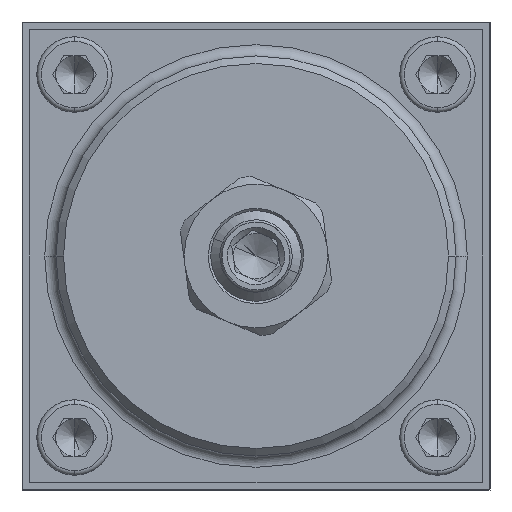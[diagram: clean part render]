
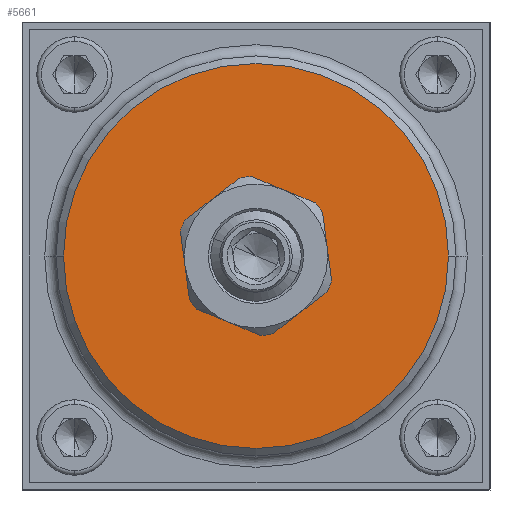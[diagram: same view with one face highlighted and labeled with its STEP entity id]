
A CAD part, left-side view. The second image highlights one B-rep face of the part: STEP entity #5661.
In plain terms, the highlighted planar face has unit normal (-1, 0, 0).
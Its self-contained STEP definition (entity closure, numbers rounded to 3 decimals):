
#672 = EDGE_LOOP ( 'NONE', ( #1467, #17270 ) ) ;
#769 = DIRECTION ( 'NONE',  ( 0., -1., 0. ) ) ;
#1389 = VERTEX_POINT ( 'NONE', #2290 ) ;
#1467 = ORIENTED_EDGE ( 'NONE', *, *, #8855, .T. ) ;
#1488 = ORIENTED_EDGE ( 'NONE', *, *, #12699, .T. ) ;
#1932 = EDGE_CURVE ( 'NONE', #13708, #6461, #3981, .T. ) ;
#2042 = VERTEX_POINT ( 'NONE', #17888 ) ;
#2168 = CARTESIAN_POINT ( 'NONE',  ( -150.5, 0., 0. ) ) ;
#2290 = CARTESIAN_POINT ( 'NONE',  ( -150.5, -25.5, 0. ) ) ;
#2869 = VERTEX_POINT ( 'NONE', #6132 ) ;
#3228 = AXIS2_PLACEMENT_3D ( 'NONE', #13258, #3989, #14816 ) ;
#3349 = CIRCLE ( 'NONE', #5441, 9.5 ) ;
#3692 = DIRECTION ( 'NONE',  ( 0., 0.382, -0.924 ) ) ;
#3981 = CIRCLE ( 'NONE', #15417, 9.5 ) ;
#3989 = DIRECTION ( 'NONE',  ( 1., 0., 0. ) ) ;
#4452 = FACE_OUTER_BOUND ( 'NONE', #672, .T. ) ;
#4626 = CARTESIAN_POINT ( 'NONE',  ( -150.5, 0., 0. ) ) ;
#5110 = ORIENTED_EDGE ( 'NONE', *, *, #12328, .T. ) ;
#5146 = CARTESIAN_POINT ( 'NONE',  ( -150.5, -9.418, 1.249 ) ) ;
#5441 = AXIS2_PLACEMENT_3D ( 'NONE', #6448, #17176, #8001 ) ;
#5661 = ADVANCED_FACE ( 'NONE', ( #4452, #16755 ), #5818, .T. ) ;
#5818 = PLANE ( 'NONE',  #7859 ) ;
#5911 = EDGE_CURVE ( 'NONE', #16078, #13708, #8334, .T. ) ;
#6132 = CARTESIAN_POINT ( 'NONE',  ( -150.5, 25.5, 0. ) ) ;
#6221 = DIRECTION ( 'NONE',  ( 0., -1., 0. ) ) ;
#6418 = CARTESIAN_POINT ( 'NONE',  ( -150.5, -5.79, -7.532 ) ) ;
#6448 = CARTESIAN_POINT ( 'NONE',  ( -150.5, 0., 0. ) ) ;
#6461 = VERTEX_POINT ( 'NONE', #5146 ) ;
#6611 = VERTEX_POINT ( 'NONE', #7020 ) ;
#6741 = CIRCLE ( 'NONE', #3228, 9.5 ) ;
#7003 = EDGE_LOOP ( 'NONE', ( #8988, #7606, #7769, #14800, #5110, #1488 ) ) ;
#7020 = CARTESIAN_POINT ( 'NONE',  ( -150.5, 9.418, -1.249 ) ) ;
#7042 = CARTESIAN_POINT ( 'NONE',  ( -150.5, 0., 0. ) ) ;
#7101 = AXIS2_PLACEMENT_3D ( 'NONE', #7042, #17735, #8591 ) ;
#7138 = CARTESIAN_POINT ( 'NONE',  ( -150.5, 0., 0. ) ) ;
#7390 = DIRECTION ( 'NONE',  ( 1., 0., 0. ) ) ;
#7606 = ORIENTED_EDGE ( 'NONE', *, *, #1932, .T. ) ;
#7769 = ORIENTED_EDGE ( 'NONE', *, *, #18689, .T. ) ;
#7859 = AXIS2_PLACEMENT_3D ( 'NONE', #4626, #15442, #6221 ) ;
#8001 = DIRECTION ( 'NONE',  ( 0., 0.382, -0.924 ) ) ;
#8334 = CIRCLE ( 'NONE', #7101, 9.5 ) ;
#8434 = CIRCLE ( 'NONE', #16371, 25.5 ) ;
#8591 = DIRECTION ( 'NONE',  ( 0., 0.382, -0.924 ) ) ;
#8671 = DIRECTION ( 'NONE',  ( 0., -1., 0. ) ) ;
#8855 = EDGE_CURVE ( 'NONE', #2869, #1389, #11901, .T. ) ;
#8958 = CARTESIAN_POINT ( 'NONE',  ( -150.5, -3.628, 8.78 ) ) ;
#8988 = ORIENTED_EDGE ( 'NONE', *, *, #5911, .T. ) ;
#10039 = DIRECTION ( 'NONE',  ( -1., 0., 0. ) ) ;
#11550 = EDGE_CURVE ( 'NONE', #1389, #2869, #8434, .T. ) ;
#11901 = CIRCLE ( 'NONE', #15877, 25.5 ) ;
#11920 = CARTESIAN_POINT ( 'NONE',  ( -150.5, 5.79, 7.532 ) ) ;
#12328 = EDGE_CURVE ( 'NONE', #2042, #6611, #3349, .T. ) ;
#12349 = DIRECTION ( 'NONE',  ( 1., 0., 0. ) ) ;
#12518 = AXIS2_PLACEMENT_3D ( 'NONE', #2168, #12977, #3692 ) ;
#12699 = EDGE_CURVE ( 'NONE', #6611, #16078, #17032, .T. ) ;
#12977 = DIRECTION ( 'NONE',  ( 1., 0., 0. ) ) ;
#12986 = AXIS2_PLACEMENT_3D ( 'NONE', #16554, #7390, #18088 ) ;
#13258 = CARTESIAN_POINT ( 'NONE',  ( -150.5, 0., 0. ) ) ;
#13708 = VERTEX_POINT ( 'NONE', #8958 ) ;
#13927 = CARTESIAN_POINT ( 'NONE',  ( -150.5, 0., 0. ) ) ;
#14641 = CIRCLE ( 'NONE', #12518, 9.5 ) ;
#14800 = ORIENTED_EDGE ( 'NONE', *, *, #15511, .T. ) ;
#14816 = DIRECTION ( 'NONE',  ( 0., 0.382, -0.924 ) ) ;
#15417 = AXIS2_PLACEMENT_3D ( 'NONE', #13927, #12349, #16243 ) ;
#15442 = DIRECTION ( 'NONE',  ( -1., 0., 0. ) ) ;
#15511 = EDGE_CURVE ( 'NONE', #19171, #2042, #6741, .T. ) ;
#15877 = AXIS2_PLACEMENT_3D ( 'NONE', #19204, #10039, #769 ) ;
#16078 = VERTEX_POINT ( 'NONE', #11920 ) ;
#16243 = DIRECTION ( 'NONE',  ( 0., 0.382, -0.924 ) ) ;
#16371 = AXIS2_PLACEMENT_3D ( 'NONE', #7138, #17820, #8671 ) ;
#16554 = CARTESIAN_POINT ( 'NONE',  ( -150.5, 0., 0. ) ) ;
#16755 = FACE_BOUND ( 'NONE', #7003, .T. ) ;
#17032 = CIRCLE ( 'NONE', #12986, 9.5 ) ;
#17176 = DIRECTION ( 'NONE',  ( 1., 0., 0. ) ) ;
#17270 = ORIENTED_EDGE ( 'NONE', *, *, #11550, .T. ) ;
#17735 = DIRECTION ( 'NONE',  ( 1., 0., 0. ) ) ;
#17820 = DIRECTION ( 'NONE',  ( -1., 0., 0. ) ) ;
#17888 = CARTESIAN_POINT ( 'NONE',  ( -150.5, 3.628, -8.78 ) ) ;
#18088 = DIRECTION ( 'NONE',  ( 0., 0.382, -0.924 ) ) ;
#18689 = EDGE_CURVE ( 'NONE', #6461, #19171, #14641, .T. ) ;
#19171 = VERTEX_POINT ( 'NONE', #6418 ) ;
#19204 = CARTESIAN_POINT ( 'NONE',  ( -150.5, 0., 0. ) ) ;
